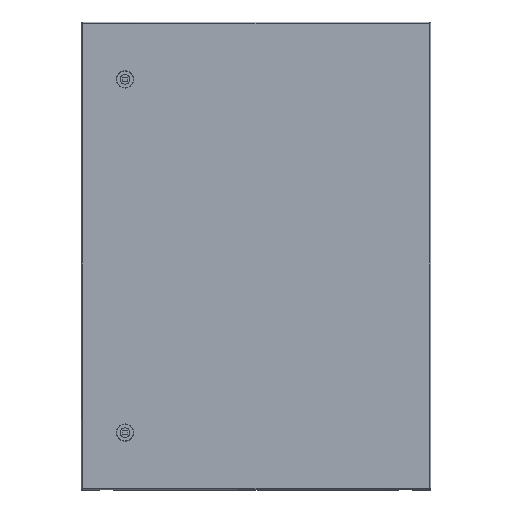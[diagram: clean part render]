
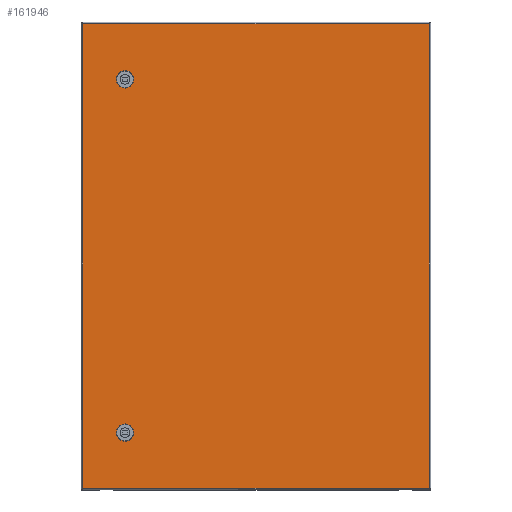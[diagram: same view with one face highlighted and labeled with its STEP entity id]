
A CAD part, top view. The second image highlights one B-rep face of the part: STEP entity #161946.
In plain terms, the highlighted planar face has unit normal (0, 0, 1).
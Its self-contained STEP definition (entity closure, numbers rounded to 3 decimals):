
#161056=CARTESIAN_POINT(' ',(2.8,0.8,0.));
#161061=DIRECTION(' ',(1.,0.,0.));
#161066=VECTOR(' ',#161061,1.);
#161071=LINE('',#161056,#161066);
#161076=CARTESIAN_POINT(' ',(2.8,0.8,0.));
#161077=VERTEX_POINT(' ',#161076);
#161081=CARTESIAN_POINT(' ',(591.2,0.8,0.));
#161082=VERTEX_POINT(' ',#161081);
#161086=EDGE_CURVE(' ',#161077,#161082,#161071,.T.);
#161806=DIRECTION(' ',(-0.,-0.,1.));
#161811=CARTESIAN_POINT(' ',(591.2,0.8,0.));
#161816=DIRECTION(' ',(0.,1.,0.));
#161821=AXIS2_PLACEMENT_3D(' ',#161811,#161806,#161816);
#161826=PLANE('NONE',#161821);
#161831=ORIENTED_EDGE(' ',*,*,#161086,.T.);
#161836=CARTESIAN_POINT(' ',(591.2,790.2,0.));
#161841=DIRECTION(' ',(0.,-1.,0.));
#161846=VECTOR(' ',#161841,1.);
#161851=LINE('',#161836,#161846);
#161856=CARTESIAN_POINT(' ',(591.2,790.2,0.));
#161857=VERTEX_POINT(' ',#161856);
#161861=EDGE_CURVE(' ',#161857,#161082,#161851,.T.);
#161866=ORIENTED_EDGE(' ',*,*,#161861,.F.);
#161871=CARTESIAN_POINT(' ',(591.2,790.2,0.));
#161876=DIRECTION(' ',(-1.,0.,0.));
#161881=VECTOR(' ',#161876,1.);
#161886=LINE('',#161871,#161881);
#161891=CARTESIAN_POINT(' ',(2.8,790.2,0.));
#161892=VERTEX_POINT(' ',#161891);
#161896=EDGE_CURVE(' ',#161857,#161892,#161886,.T.);
#161901=ORIENTED_EDGE(' ',*,*,#161896,.T.);
#161906=CARTESIAN_POINT(' ',(2.8,790.2,0.));
#161911=DIRECTION(' ',(0.,-1.,0.));
#161916=VECTOR(' ',#161911,1.);
#161921=LINE('',#161906,#161916);
#161926=EDGE_CURVE(' ',#161892,#161077,#161921,.T.);
#161931=ORIENTED_EDGE(' ',*,*,#161926,.T.);
#161936=EDGE_LOOP(' ',(#161831,#161866,#161901,#161931));
#161941=FACE_OUTER_BOUND(' ',#161936,.T.);
#161946=ADVANCED_FACE('NONE',(#161941),#161826,.T.);
